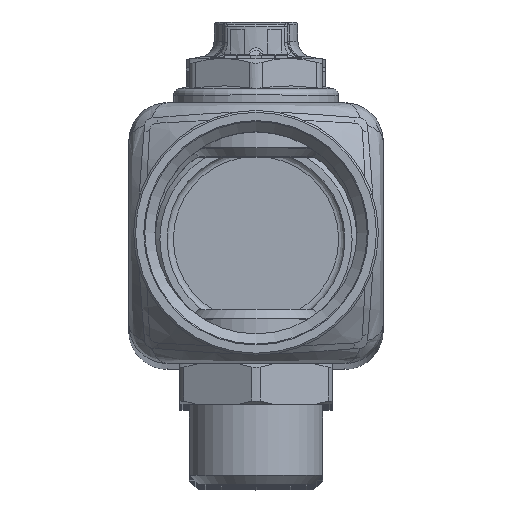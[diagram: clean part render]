
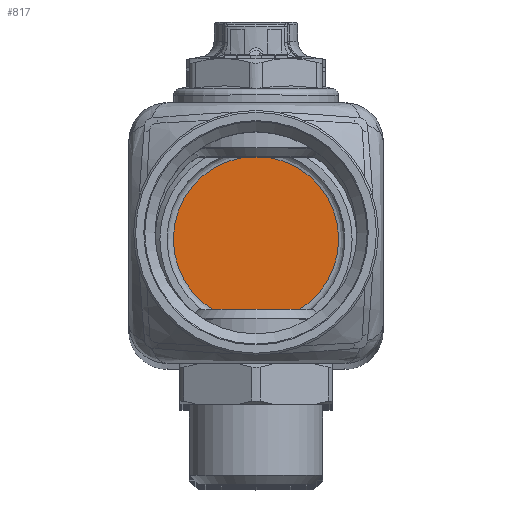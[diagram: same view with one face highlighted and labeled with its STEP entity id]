
A CAD part, top view. The second image highlights one B-rep face of the part: STEP entity #817.
In plain terms, the highlighted planar face has unit normal (0, 0, 1).
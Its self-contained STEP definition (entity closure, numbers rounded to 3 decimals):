
#817=ADVANCED_FACE('',(#10240),#10242,.T.);
#10240=FACE_BOUND('',#10241,.T.);
#10241=EDGE_LOOP('',(#14395));
#10242=PLANE('',#10243);
#10243=AXIS2_PLACEMENT_3D('',#10244,#10245,#10246);
#10244=CARTESIAN_POINT('',(0.,0.,-284.75));
#10245=DIRECTION('',(0.,0.,1.));
#10246=DIRECTION('',(1.,0.,0.));
#14395=ORIENTED_EDGE('',*,*,#17646,.T.);
#17646=EDGE_CURVE('',#21214,#21214,#21215,.T.);
#21214=VERTEX_POINT('',#33584);
#21215=CIRCLE('',#33585,13.);
#33584=CARTESIAN_POINT('',(13.,0.,-284.75));
#33585=AXIS2_PLACEMENT_3D('',#33586,#33587,#33588);
#33586=CARTESIAN_POINT('',(0.,0.,-284.75));
#33587=DIRECTION('',(0.,0.,1.));
#33588=DIRECTION('',(1.,0.,0.));
